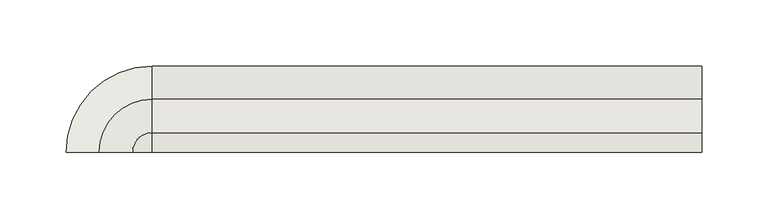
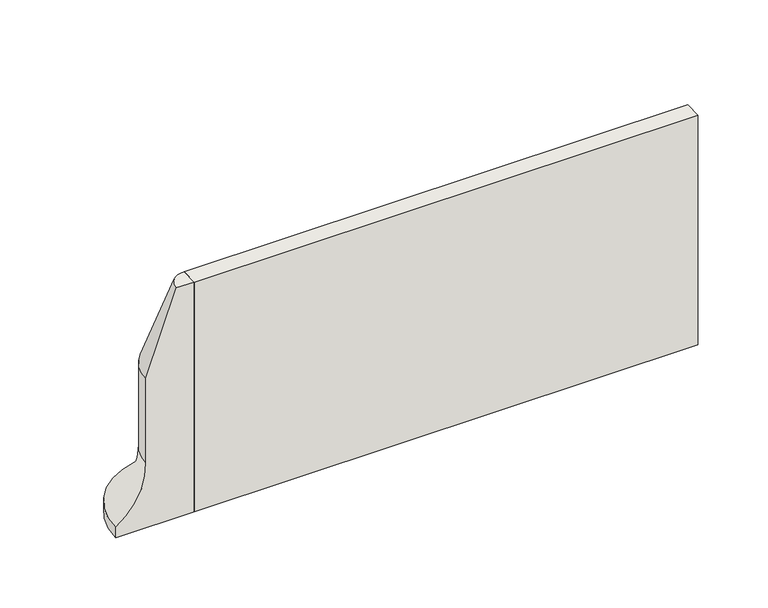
"""IFC4 building model written with IfcOpenShell, lengths in millimetres: wall geometry, GM_PC_UN_ACO kerb PB outside corner_ACO : PB H200 plain."""

from ifc_helpers import new_model, si_unit, point, frame, frame_2d, origin, place, context, project, spatial, polyline, circle_curve, ellipse_curve, trimmed, segment, composite_curve, outline, extrude, source, transform, mapped, element, save
from ifc_brep_helpers import plane_surface, cylinder_surface, revolved_surface, advanced_brep


def wall_fe3971ef(model_context):
    return source(origin(), model_context, "Body", "SolidModel", [
        extrude(outline(composite_curve([segment(polyline([(40.0039527, 130.0277035), (40.0039527, 54.9895287)]), True, "CONTINUOUS"), segment(trimmed(circle_curve(frame_2d((94.2239515, 54.592465)), 54.2214526), [point((40.0039527, 54.9895287))], [point((65.0, 8.9205197))], True, "CARTESIAN"), True, "CONTINUOUS"), segment(polyline([(65.0, 8.9205197), (65.0, 0.0), (0.0, 0.0), (0.0, 200.0), (14.8642318, 200.0), (40.0039527, 130.0277035)]), True, "CONTINUOUS")], self_intersect=False)), frame((0.0, 0.0, 0.0), z_axis=(1.0, 0.0, 0.0), x_axis=(0.0, 1.0, 0.0)), (0.0, 0.0, 1.0), 415.0),
        advanced_brep(
        [(0.0, 40.0039527, 130.0079616), (0.0, 14.8571389, 200.0), (0.0, 0.0, 200.0), (0.0, 0.0, 0.0), (0.0, 65.0, 0.0), (0.0, 65.0, 8.9062534), (0.0, 40.0039527, 56.1975261), (-40.0039527, 0.0, 130.0079616), (-40.0039527, 0.0, 56.1975261), (-65.0, 0.0, 8.9062534), (-65.0, 0.0, 0.0), (-14.8571389, 0.0, 200.0)],
        [
            (0, 1),
            (1, 2),
            (2, 3),
            (3, 4),
            (4, 5),
            (5, 6, circle_curve(frame((0.0, 94.2016436, 54.592465), z_axis=(-1.0, 0.0, 0.0), x_axis=(0.0, 1.0, 0.0)), 54.2214526)),
            (6, 0),
            (7, 8),
            (8, 9, circle_curve(frame((-94.2016436, 0.0, 54.592465), z_axis=(0.0, 1.0, 0.0), x_axis=(-1.0, 0.0, 0.0)), 54.2214526)),
            (9, 10),
            (10, 3),
            (2, 11),
            (11, 7),
            (11, 1, circle_curve(frame((0.0, 0.0, 200.0), z_axis=(0.0, 0.0, -1.0), x_axis=(0.0, 1.0, 0.0)), 14.8571389)),
            (0, 7, circle_curve(frame((0.0, 0.0, 130.0079616), z_axis=(0.0, 0.0, 1.0), x_axis=(0.0, 1.0, 0.0)), 40.0039527)),
            (10, 4, circle_curve(frame((0.0, 0.0, 0.0), z_axis=(0.0, 0.0, -1.0), x_axis=(0.0, 1.0, 0.0)), 65.0)),
            (9, 5, circle_curve(frame((0.0, 0.0, 8.9062534), z_axis=(0.0, 0.0, -1.0), x_axis=(0.0, 1.0, 0.0)), 65.0)),
            (8, 6, circle_curve(frame((0.0, 0.0, 56.1975261), z_axis=(0.0, 0.0, -1.0), x_axis=(0.0, 1.0, 0.0)), 40.0039527)),
        ],
        [
            plane_surface(frame((0.0, 0.0, 1459.9802581), z_axis=(1.0, 0.0, 0.0), x_axis=(0.0, 1.0, 0.0))),
            plane_surface(frame((0.0, 0.0, 1459.9802581), z_axis=(0.0, -1.0, 0.0), x_axis=(-1.0, 0.0, 0.0))),
            revolved_surface(polyline([(0.0, 40.0039527, 130.0079616), (0.0, 14.8571389, 200.0)]), (0.0, 0.0, 1459.9802581), (0.0, 0.0, 1.0)),
            plane_surface(frame((0.0, 0.0, 200.0), z_axis=(0.0, 0.0, 1.0), x_axis=(0.0, 1.0, 0.0))),
            plane_surface(frame((0.0, 0.0, 0.0), z_axis=(0.0, 0.0, -1.0), x_axis=(0.0, 1.0, 0.0))),
            cylinder_surface(frame((0.0, 0.0, 1459.9802581), z_axis=(0.0, 0.0, 1.0), x_axis=(0.0, 1.0, 0.0)), 65.0),
            revolved_surface(trimmed(ellipse_curve(frame((0.0, 94.2016436, 54.592465), z_axis=(-1.0, 0.0, 0.0), x_axis=(0.0, 1.0, 0.0)), 54.2214526, 54.2214526), [point((0.0, 65.0, 8.9062534))], [point((0.0, 40.0039527, 56.1975261))], True, "CARTESIAN"), (0.0, 0.0, 1459.9802581), (0.0, 0.0, 1.0)),
            cylinder_surface(frame((0.0, 0.0, 1459.9802581), z_axis=(0.0, 0.0, 1.0), x_axis=(0.0, 1.0, 0.0)), 40.0039527),
        ],
        [
            (0, [[1, 2, 3, 4, 5, 6, 7]]),
            (1, [[8, 9, 10, 11, -3, 12, 13]]),
            (2, [[14, -1, 15, -13]]),
            (3, [[-2, -14, -12]]),
            (4, [[16, -4, -11]]),
            (5, [[17, -5, -16, -10]]),
            (6, [[18, -6, -17, -9]]),
            (7, [[-15, -7, -18, -8]]),
        ],
    ),
    ])


if __name__ == "__main__":
    model = new_model("IFC4")
    model_context = context("Model", 3, world=origin())
    ifc_project = project(units=[si_unit("LENGTHUNIT", "METRE", prefix="MILLI")], contexts=[model_context])
    site = spatial("IfcSite", under=ifc_project)
    building = spatial("IfcBuilding", under=site)
    placement = place(None, origin())
    wall_shape = wall_fe3971ef(model_context)
    element("IfcWall", 1, ObjectType="GM_PC_UN_ACO kerb PB outside corner_ACO : PB H200 plain", at=placement, inside=building, context=model_context, shape_type="MappedRepresentation", body=[
        mapped(wall_shape, transform((0.0, 0.0, 0.0), x_axis=(1.0, 0.0, 0.0), y_axis=(0.0, 1.0, 0.0), z_axis=(0.0, 0.0, 1.0))),
    ])
    save(model, "model.ifc")
